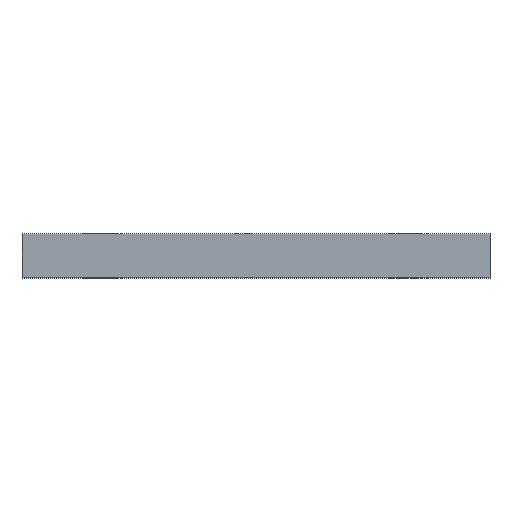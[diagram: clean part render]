
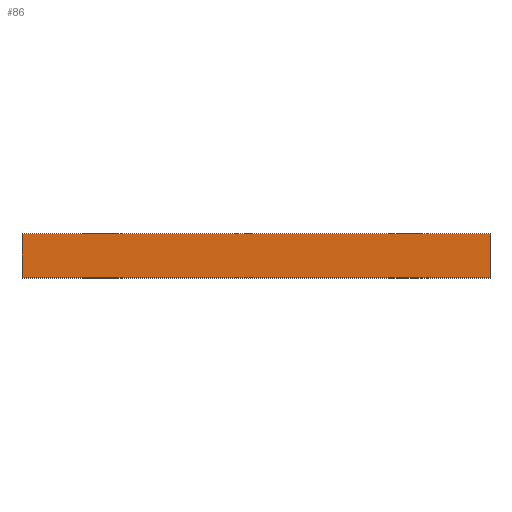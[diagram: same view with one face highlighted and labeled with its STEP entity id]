
A CAD part, top view. The second image highlights one B-rep face of the part: STEP entity #86.
In plain terms, the highlighted planar face has unit normal (0, 0, 1).
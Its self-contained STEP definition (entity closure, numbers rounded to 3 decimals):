
#4 = LINE ( 'NONE', #291, #112 ) ;
#6 = ORIENTED_EDGE ( 'NONE', *, *, #437, .F. ) ;
#67 = CARTESIAN_POINT ( 'NONE',  ( -248., 46., 298. ) ) ;
#74 = ORIENTED_EDGE ( 'NONE', *, *, #1072, .T. ) ;
#86 = ADVANCED_FACE ( 'NONE', ( #795 ), #361, .F. ) ;
#112 = VECTOR ( 'NONE', #878, 1000. ) ;
#122 = EDGE_CURVE ( 'NONE', #154, #976, #4, .T. ) ;
#154 = VERTEX_POINT ( 'NONE', #638 ) ;
#171 = DIRECTION ( 'NONE',  ( 1., 0., 0. ) ) ;
#256 = AXIS2_PLACEMENT_3D ( 'NONE', #527, #1060, #363 ) ;
#291 = CARTESIAN_POINT ( 'NONE',  ( 248., 46., 298. ) ) ;
#333 = CARTESIAN_POINT ( 'NONE',  ( -248., 46., 298. ) ) ;
#361 = PLANE ( 'NONE',  #256 ) ;
#363 = DIRECTION ( 'NONE',  ( -1., 0., 0. ) ) ;
#393 = ORIENTED_EDGE ( 'NONE', *, *, #619, .T. ) ;
#426 = CARTESIAN_POINT ( 'NONE',  ( -248., 0., 298. ) ) ;
#437 = EDGE_CURVE ( 'NONE', #788, #154, #823, .T. ) ;
#465 = LINE ( 'NONE', #426, #1040 ) ;
#474 = CARTESIAN_POINT ( 'NONE',  ( 248., 0., 298. ) ) ;
#527 = CARTESIAN_POINT ( 'NONE',  ( -248., 46., 298. ) ) ;
#532 = DIRECTION ( 'NONE',  ( 1., 0., 0. ) ) ;
#562 = DIRECTION ( 'NONE',  ( 0., -1., 0. ) ) ;
#619 = EDGE_CURVE ( 'NONE', #948, #976, #465, .T. ) ;
#638 = CARTESIAN_POINT ( 'NONE',  ( 248., 46., 298. ) ) ;
#714 = LINE ( 'NONE', #333, #742 ) ;
#721 = EDGE_LOOP ( 'NONE', ( #393, #1030, #6, #74 ) ) ;
#725 = CARTESIAN_POINT ( 'NONE',  ( -248., 0., 298. ) ) ;
#742 = VECTOR ( 'NONE', #562, 1000. ) ;
#788 = VERTEX_POINT ( 'NONE', #861 ) ;
#795 = FACE_OUTER_BOUND ( 'NONE', #721, .T. ) ;
#823 = LINE ( 'NONE', #67, #957 ) ;
#861 = CARTESIAN_POINT ( 'NONE',  ( -248., 46., 298. ) ) ;
#878 = DIRECTION ( 'NONE',  ( 0., -1., 0. ) ) ;
#948 = VERTEX_POINT ( 'NONE', #725 ) ;
#957 = VECTOR ( 'NONE', #532, 1000. ) ;
#976 = VERTEX_POINT ( 'NONE', #474 ) ;
#1030 = ORIENTED_EDGE ( 'NONE', *, *, #122, .F. ) ;
#1040 = VECTOR ( 'NONE', #171, 1000. ) ;
#1060 = DIRECTION ( 'NONE',  ( 0., 0., -1. ) ) ;
#1072 = EDGE_CURVE ( 'NONE', #788, #948, #714, .T. ) ;
